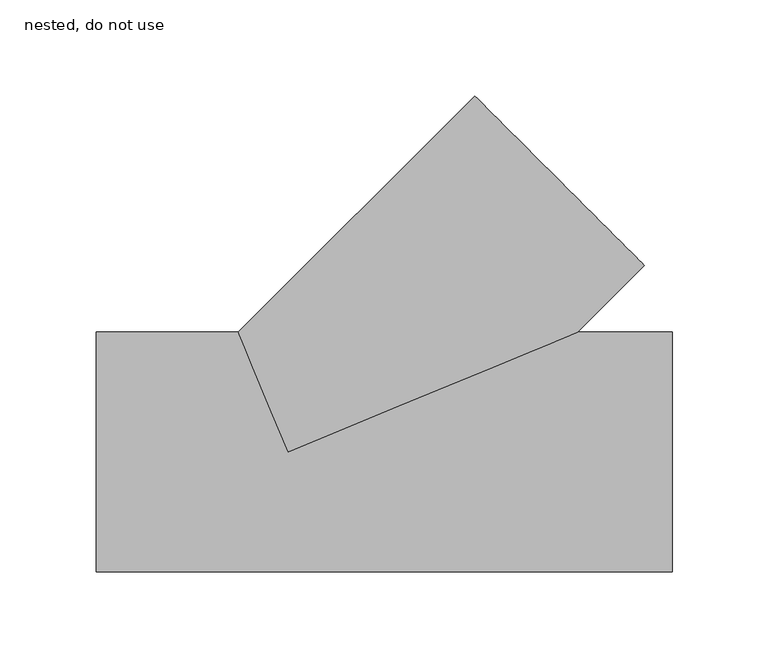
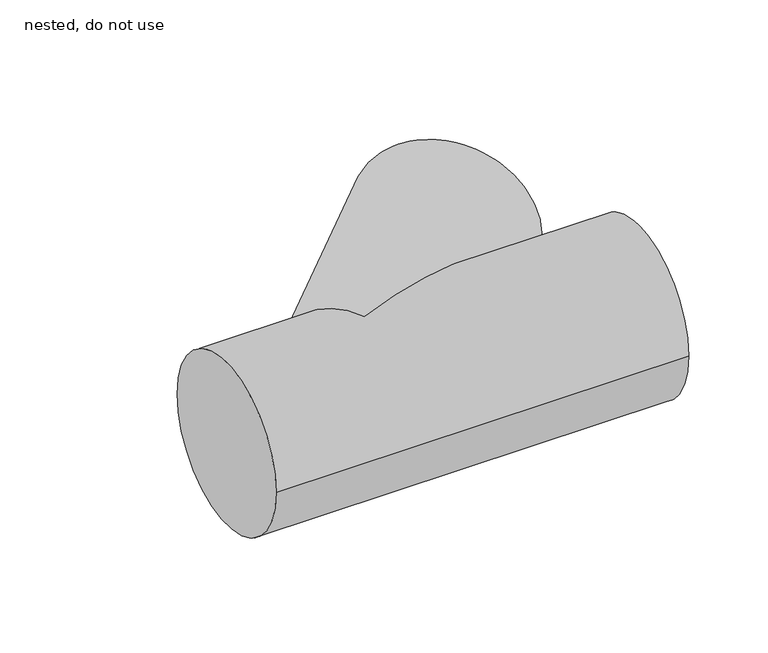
"""IFC4 building model written with IfcOpenShell, lengths in millimetres: pipe fitting geometry, NLRS_52_PIF_UN_HDPE equal branch -SH_Akatherm : nested, do not use."""

from ifc_helpers import new_model, si_unit, frame, origin, place, context, project, spatial, circle_curve, ellipse_curve, source, transform, mapped, element, save
from ifc_brep_helpers import plane_surface, cylinder_surface, advanced_brep


def nested_do_not_use_3388fafc(model_context):
    return source(origin(), model_context, "Body", "AdvancedBrep", [
        advanced_brep(
        [(185.6155301, 97.2271824, 0.0), (97.2271824, 185.6155301, 0.0), (-25.8883476, 62.5, 0.0), (0.0, 0.0, 62.5), (150.8883476, 62.5, 0.0), (0.0, 0.0, -62.5), (-100.0, -62.5, 0.0), (-100.0, 62.5, 0.0), (200.0, -62.5, 0.0), (200.0, 62.5, 0.0)],
        [
            (0, 1, circle_curve(frame((141.4213562, 141.4213562, 0.0), z_axis=(0.7071067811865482, 0.707106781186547, 0.0), x_axis=(-0.707106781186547, 0.7071067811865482, 0.0)), 62.5)),
            (1, 0, circle_curve(frame((141.4213562, 141.4213562, 0.0), z_axis=(0.7071067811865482, 0.707106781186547, 0.0), x_axis=(-0.707106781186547, 0.7071067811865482, 0.0)), 62.5)),
            (1, 2),
            (2, 3, ellipse_curve(frame((0.0, 0.0, 0.0), z_axis=(0.9238795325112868, 0.38268343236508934, 0.0), x_axis=(0.38268343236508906, -0.9238795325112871, 0.0)), 67.6495125, 62.5)),
            (3, 4, ellipse_curve(frame((0.0, 0.0, 0.0), z_axis=(-0.3826834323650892, 0.9238795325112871, 0.0), x_axis=(-0.9238795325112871, -0.3826834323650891, 0.0)), 163.3203706, 62.5)),
            (4, 0),
            (4, 5, ellipse_curve(frame((0.0, 0.0, 0.0), z_axis=(-0.3826834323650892, 0.9238795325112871, 0.0), x_axis=(-0.9238795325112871, -0.3826834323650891, 0.0)), 163.3203706, 62.5)),
            (5, 2, ellipse_curve(frame((0.0, 0.0, 0.0), z_axis=(0.9238795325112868, 0.38268343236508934, 0.0), x_axis=(0.38268343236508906, -0.9238795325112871, 0.0)), 67.6495125, 62.5)),
            (6, 7, circle_curve(frame((-100.0, 0.0, 0.0), z_axis=(-1.0, 0.0, 0.0), x_axis=(0.0, 1.0, 0.0)), 62.5)),
            (7, 6, circle_curve(frame((-100.0, 0.0, 0.0), z_axis=(-1.0, 0.0, 0.0), x_axis=(0.0, 1.0, 0.0)), 62.5)),
            (8, 9, circle_curve(frame((200.0, 0.0, 0.0), z_axis=(1.0, 0.0, 0.0), x_axis=(0.0, 1.0, 0.0)), 62.5)),
            (9, 8, circle_curve(frame((200.0, 0.0, 0.0), z_axis=(1.0, 0.0, 0.0), x_axis=(0.0, 1.0, 0.0)), 62.5)),
            (6, 8),
            (9, 4),
            (2, 7),
        ],
        [
            plane_surface(frame((141.4213562, 141.4213562, 0.0), z_axis=(0.7071067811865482, 0.707106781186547, 0.0), x_axis=(0.0, 0.0, 1.0))),
            cylinder_surface(frame((0.0, 0.0, 0.0), z_axis=(-0.7071067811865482, -0.707106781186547, 0.0), x_axis=(-0.707106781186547, 0.7071067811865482, 0.0)), 62.5),
            plane_surface(frame((-100.0, 0.0, 0.0), z_axis=(-1.0, 0.0, 0.0), x_axis=(0.0, 0.0, 1.0))),
            plane_surface(frame((200.0, 0.0, 0.0), z_axis=(1.0, 0.0, 0.0), x_axis=(0.0, 0.0, 1.0))),
            cylinder_surface(frame((-100.0, 0.0, 0.0), z_axis=(-1.0, 0.0, 0.0), x_axis=(0.0, 1.0, 0.0)), 62.5),
        ],
        [
            (0, [[1, 2]]),
            (1, [[-2, 3, 4, 5, 6]]),
            (1, [[-1, -6, 7, 8, -3]]),
            (2, [[9, 10]]),
            (3, [[11, 12]]),
            (4, [[-9, 13, -12, 14, -5, -4, 15]]),
            (4, [[-10, -15, -8, -7, -14, -11, -13]]),
        ],
    ),
    ])


if __name__ == "__main__":
    model = new_model("IFC4")
    model_context = context("Model", 3, world=origin())
    ifc_project = project(units=[si_unit("LENGTHUNIT", "METRE", prefix="MILLI")], contexts=[model_context])
    site = spatial("IfcSite", under=ifc_project)
    building = spatial("IfcBuilding", under=site)
    placement = place(None, origin())
    nested_do_not_use_shape = nested_do_not_use_3388fafc(model_context)
    element("IfcPipeFitting", 1, ObjectType="NLRS_52_PIF_UN_HDPE equal branch -SH_Akatherm : nested, do not use", at=placement, inside=building, context=model_context, shape_type="MappedRepresentation", body=[
        mapped(nested_do_not_use_shape, transform((0.0, 0.0, 0.0), x_axis=(1.0, 0.0, 0.0), y_axis=(0.0, 1.0, 0.0), z_axis=(0.0, 0.0, 1.0))),
    ])
    save(model, "model.ifc")
